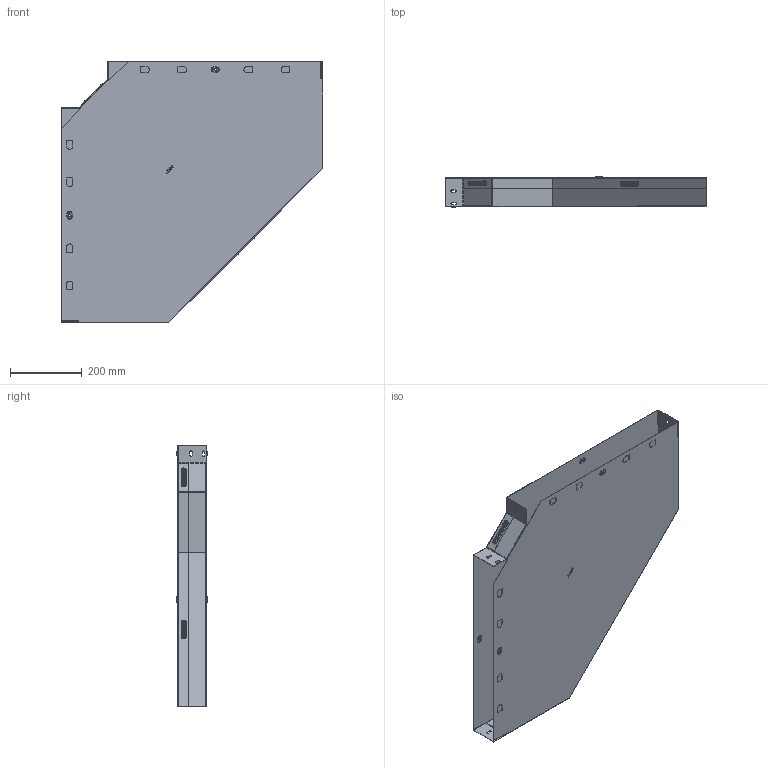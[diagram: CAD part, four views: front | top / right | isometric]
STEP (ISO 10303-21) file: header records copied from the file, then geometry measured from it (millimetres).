
FILE_DESCRIPTION (( 'STEP AP214' ), '1' );
FILE_NAME ('g9080600_捘.STEP', '2019-06-10T09:52:14', ( '砐錪賧瘔蠈錪 Windows' ), ( '' ), 'SwSTEP 2.0', 'SolidWorks 2018', '' );
FILE_SCHEMA (( 'AUTOMOTIVE_DESIGN' ));
Length unit declared in the file: millimetre
Products named in the file (1): g9080600_捘
Bounding box: 730.8 x 83.8 x 730.8 mm (x, y, z)
Volume: 792649.4 mm3; surface area: 1988027.3 mm2
Topology: 2 solids, 2 shells, 598 faces, 1662 edges, 1076 vertices
Faces by surface type: plane 352, cylinder 156, torus 64, bspline 26
Entity records: 20463 total; most frequent: CARTESIAN_POINT 4813, ORIENTED_EDGE 3324, DIRECTION 3136, EDGE_CURVE 1662, VECTOR 1206, LINE 1206, VERTEX_POINT 1076, AXIS2_PLACEMENT_3D 965
